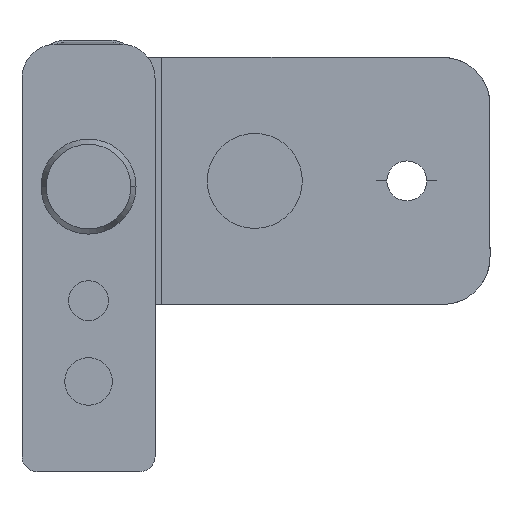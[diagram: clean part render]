
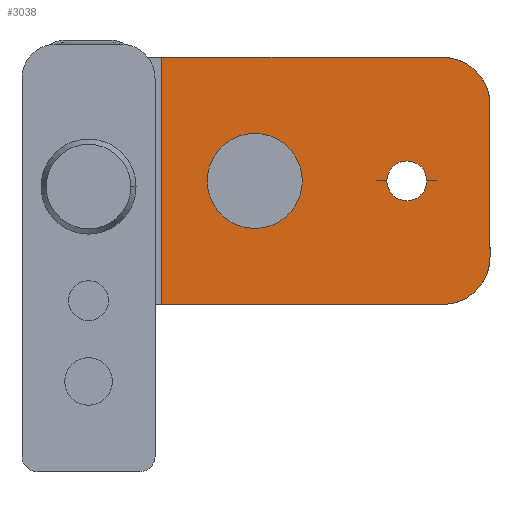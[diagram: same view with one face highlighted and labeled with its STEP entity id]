
A CAD part, front view. The second image highlights one B-rep face of the part: STEP entity #3038.
In plain terms, the highlighted planar face has unit normal (0, -1, 0).
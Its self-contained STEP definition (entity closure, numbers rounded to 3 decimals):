
#187 = VERTEX_POINT ( 'NONE', #1611 ) ;
#191 = VERTEX_POINT ( 'NONE', #1615 ) ;
#216 = VERTEX_POINT ( 'NONE', #1301 ) ;
#221 = VERTEX_POINT ( 'NONE', #1306 ) ;
#231 = VERTEX_POINT ( 'NONE', #1316 ) ;
#296 = CARTESIAN_POINT ( 'NONE',  ( 31.4, 397., 0.6 ) ) ;
#785 = FACE_BOUND ( 'NONE', #1406, .T. ) ;
#786 = FACE_OUTER_BOUND ( 'NONE', #1547, .T. ) ;
#974 = CIRCLE ( 'NONE', #3303, 2.1 ) ;
#1084 = LINE ( 'NONE', #3398, #1085 ) ;
#1085 = VECTOR ( 'NONE', #3399, 1000. ) ;
#1116 = CIRCLE ( 'NONE', #3355, 5. ) ;
#1216 = CARTESIAN_POINT ( 'NONE',  ( 33.5, 397., 0.6 ) ) ;
#1217 = DIRECTION ( 'NONE',  ( 0., -1., 0. ) ) ;
#1218 = DIRECTION ( 'NONE',  ( 1., 0., 0. ) ) ;
#1301 = CARTESIAN_POINT ( 'NONE',  ( 37.25, 397., -12.4 ) ) ;
#1306 = CARTESIAN_POINT ( 'NONE',  ( 37.25, 397., 13.6 ) ) ;
#1316 = CARTESIAN_POINT ( 'NONE',  ( 42.25, 397., -7.4 ) ) ;
#1403 = VECTOR ( 'NONE', #2092, 1000. ) ;
#1404 = LINE ( 'NONE', #2091, #1403 ) ;
#1405 = VECTOR ( 'NONE', #2090, 1000. ) ;
#1406 = EDGE_LOOP ( 'NONE', ( #2559, #2558 ) ) ;
#1407 = CIRCLE ( 'NONE', #3169, 5. ) ;
#1408 = LINE ( 'NONE', #2089, #1405 ) ;
#1410 = CIRCLE ( 'NONE', #3168, 2.1 ) ;
#1422 = VECTOR ( 'NONE', #2078, 1000. ) ;
#1424 = LINE ( 'NONE', #2077, #1422 ) ;
#1529 = CARTESIAN_POINT ( 'NONE',  ( 35.6, 397., 0.6 ) ) ;
#1547 = EDGE_LOOP ( 'NONE', ( #2557, #2556, #2555, #2554, #2553, #2552 ) ) ;
#1611 = CARTESIAN_POINT ( 'NONE',  ( 7.7, 397., -12.4 ) ) ;
#1615 = CARTESIAN_POINT ( 'NONE',  ( 42.25, 397., 8.6 ) ) ;
#1966 = EDGE_CURVE ( 'NONE', #221, #1988, #1424, .T. ) ;
#1969 = EDGE_CURVE ( 'NONE', #2762, #2748, #1410, .T. ) ;
#1970 = EDGE_CURVE ( 'NONE', #221, #191, #1407, .T. ) ;
#1971 = EDGE_CURVE ( 'NONE', #1988, #187, #1408, .T. ) ;
#1972 = EDGE_CURVE ( 'NONE', #216, #187, #1404, .T. ) ;
#1988 = VERTEX_POINT ( 'NONE', #2180 ) ;
#2077 = CARTESIAN_POINT ( 'NONE',  ( 42.25, 397., 13.6 ) ) ;
#2078 = DIRECTION ( 'NONE',  ( -1., 0., 0. ) ) ;
#2083 = CARTESIAN_POINT ( 'NONE',  ( 33.5, 397., 0.6 ) ) ;
#2084 = DIRECTION ( 'NONE',  ( 0., -1., 0. ) ) ;
#2085 = DIRECTION ( 'NONE',  ( 1., 0., 0. ) ) ;
#2086 = CARTESIAN_POINT ( 'NONE',  ( 37.25, 397., 8.6 ) ) ;
#2087 = DIRECTION ( 'NONE',  ( 0., 1., 0. ) ) ;
#2088 = DIRECTION ( 'NONE',  ( 1., 0., 0. ) ) ;
#2089 = CARTESIAN_POINT ( 'NONE',  ( 7.7, 397., 13.6 ) ) ;
#2090 = DIRECTION ( 'NONE',  ( 0., 0., -1. ) ) ;
#2091 = CARTESIAN_POINT ( 'NONE',  ( 42.25, 397., -12.4 ) ) ;
#2092 = DIRECTION ( 'NONE',  ( -1., 0., 0. ) ) ;
#2180 = CARTESIAN_POINT ( 'NONE',  ( 7.7, 397., 13.6 ) ) ;
#2411 = PLANE ( 'NONE',  #3201 ) ;
#2412 = CARTESIAN_POINT ( 'NONE',  ( 42.25, 397., 13.6 ) ) ;
#2413 = DIRECTION ( 'NONE',  ( 0., 1., 0. ) ) ;
#2414 = DIRECTION ( 'NONE',  ( 1., 0., 0. ) ) ;
#2552 = ORIENTED_EDGE ( 'NONE', *, *, #4576, .F. ) ;
#2553 = ORIENTED_EDGE ( 'NONE', *, *, #1972, .F. ) ;
#2554 = ORIENTED_EDGE ( 'NONE', *, *, #1971, .T. ) ;
#2555 = ORIENTED_EDGE ( 'NONE', *, *, #1966, .T. ) ;
#2556 = ORIENTED_EDGE ( 'NONE', *, *, #1970, .F. ) ;
#2557 = ORIENTED_EDGE ( 'NONE', *, *, #4527, .F. ) ;
#2558 = ORIENTED_EDGE ( 'NONE', *, *, #1969, .F. ) ;
#2559 = ORIENTED_EDGE ( 'NONE', *, *, #3966, .F. ) ;
#2748 = VERTEX_POINT ( 'NONE', #1529 ) ;
#2762 = VERTEX_POINT ( 'NONE', #296 ) ;
#3038 = ADVANCED_FACE ( 'NONE', ( #785, #786 ), #2411, .F. ) ;
#3168 = AXIS2_PLACEMENT_3D ( 'NONE', #2083, #2084, #2085 ) ;
#3169 = AXIS2_PLACEMENT_3D ( 'NONE', #2086, #2087, #2088 ) ;
#3201 = AXIS2_PLACEMENT_3D ( 'NONE', #2412, #2413, #2414 ) ;
#3303 = AXIS2_PLACEMENT_3D ( 'NONE', #1216, #1217, #1218 ) ;
#3355 = AXIS2_PLACEMENT_3D ( 'NONE', #3443, #3444, #3445 ) ;
#3398 = CARTESIAN_POINT ( 'NONE',  ( 42.25, 397., 13.6 ) ) ;
#3399 = DIRECTION ( 'NONE',  ( 0., 0., -1. ) ) ;
#3443 = CARTESIAN_POINT ( 'NONE',  ( 37.25, 397., -7.4 ) ) ;
#3444 = DIRECTION ( 'NONE',  ( 0., 1., 0. ) ) ;
#3445 = DIRECTION ( 'NONE',  ( 1., 0., 0. ) ) ;
#3966 = EDGE_CURVE ( 'NONE', #2748, #2762, #974, .T. ) ;
#4527 = EDGE_CURVE ( 'NONE', #191, #231, #1084, .T. ) ;
#4576 = EDGE_CURVE ( 'NONE', #231, #216, #1116, .T. ) ;
